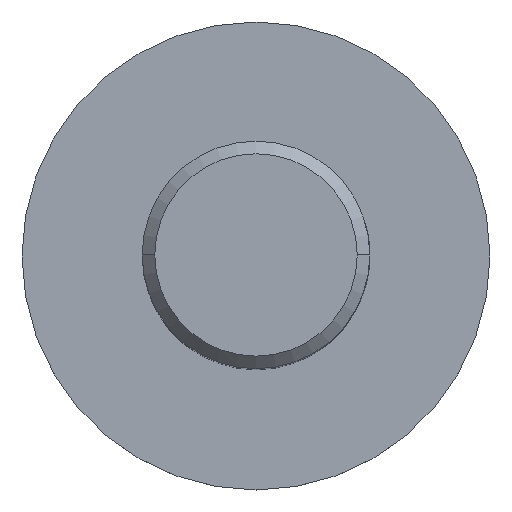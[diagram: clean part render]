
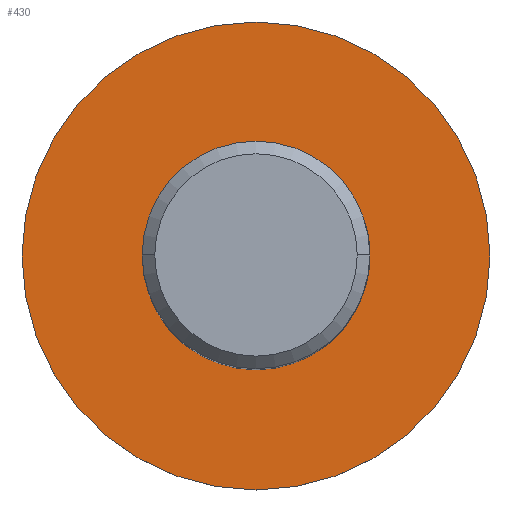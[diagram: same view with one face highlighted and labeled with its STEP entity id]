
A CAD part, top view. The second image highlights one B-rep face of the part: STEP entity #430.
In plain terms, the highlighted planar face has unit normal (0, 0, 1).
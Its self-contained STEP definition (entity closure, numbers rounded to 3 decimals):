
#40=CARTESIAN_POINT('',(0.,-9.,0.));
#41=DIRECTION('',(0.,0.,1.));
#42=DIRECTION('',(1.,0.,0.));
#43=AXIS2_PLACEMENT_3D('',#40,#41,#42);
#105=CARTESIAN_POINT('',(0.,-9.,0.));
#106=DIRECTION('',(0.,0.,1.));
#107=DIRECTION('',(-1.,0.,0.));
#108=AXIS2_PLACEMENT_3D('',#105,#106,#107);
#141=CARTESIAN_POINT('',(0.,-9.,0.));
#142=DIRECTION('',(0.,0.,-1.));
#143=DIRECTION('',(-1.,0.,0.));
#144=AXIS2_PLACEMENT_3D('',#141,#142,#143);
#146=CARTESIAN_POINT('',(0.,-9.,0.));
#147=DIRECTION('',(0.,0.,-1.));
#148=DIRECTION('',(1.,0.,0.));
#149=AXIS2_PLACEMENT_3D('',#146,#147,#148);
#215=CARTESIAN_POINT('',(-18.5,-9.,0.));
#216=CARTESIAN_POINT('',(18.5,-9.,0.));
#217=VERTEX_POINT('',#215);
#218=VERTEX_POINT('',#216);
#223=CARTESIAN_POINT('',(9.,-9.,0.));
#224=CARTESIAN_POINT('',(-9.,-9.,0.));
#225=VERTEX_POINT('',#223);
#226=VERTEX_POINT('',#224);
#415=CARTESIAN_POINT('',(0.,0.,0.));
#416=DIRECTION('',(0.,0.,-1.));
#417=DIRECTION('',(-1.,0.,0.));
#418=AXIS2_PLACEMENT_3D('',#415,#416,#417);
#419=PLANE('',#418);
#421=ORIENTED_EDGE('',*,*,#420,.T.);
#423=ORIENTED_EDGE('',*,*,#422,.T.);
#424=EDGE_LOOP('',(#421,#423));
#425=FACE_OUTER_BOUND('',#424,.F.);
#426=ORIENTED_EDGE('',*,*,#314,.T.);
#427=ORIENTED_EDGE('',*,*,#382,.T.);
#428=EDGE_LOOP('',(#426,#427));
#429=FACE_BOUND('',#428,.F.);
#44=CIRCLE('',#43,9.);
#109=CIRCLE('',#108,9.);
#145=CIRCLE('',#144,18.5);
#150=CIRCLE('',#149,18.5);
#314=EDGE_CURVE('',#225,#226,#44,.T.);
#382=EDGE_CURVE('',#226,#225,#109,.T.);
#420=EDGE_CURVE('',#217,#218,#145,.T.);
#422=EDGE_CURVE('',#218,#217,#150,.T.);
#430=ADVANCED_FACE('',(#425,#429),#419,.F.);
